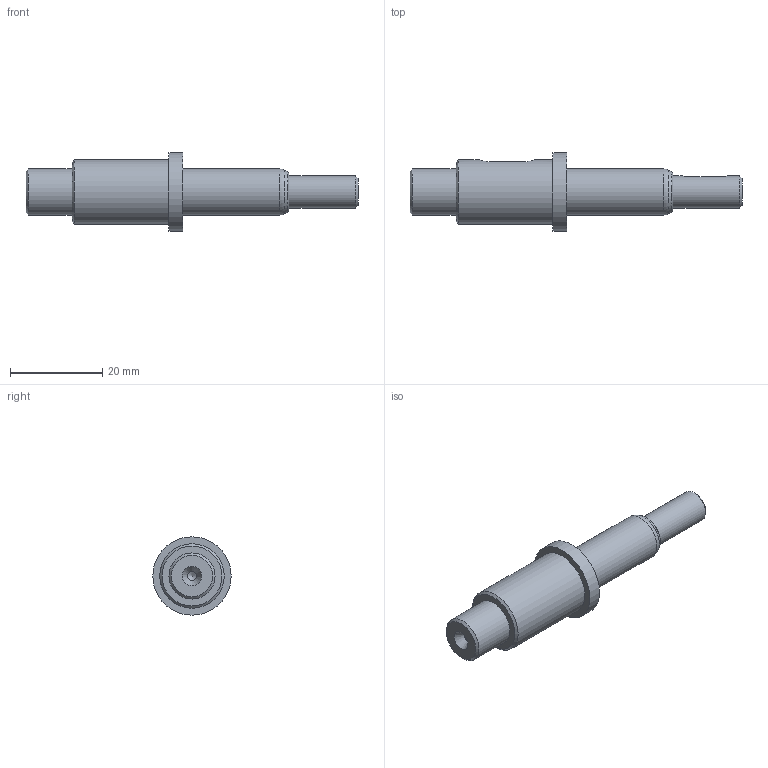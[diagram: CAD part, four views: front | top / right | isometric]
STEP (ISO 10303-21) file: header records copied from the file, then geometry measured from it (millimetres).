
FILE_DESCRIPTION(/* description */ (''),/* implementation_level */ '2;1');
FILE_NAME(/* name */ '',/* time_stamp */ '2025-01-06T15:39:40+09:00',/* author */ ('jhkim'),/* organization */ (''),/* preprocessor_version */ 'ST-DEVELOPER v20',/* originating_system */ 'Autodesk Inventor 2025',/* authorisation */ '');
FILE_SCHEMA (('AUTOMOTIVE_DESIGN { 1 0 10303 214 3 1 1 }'));
Length unit declared in the file: millimetre
Products named in the file (1): 상단 축
Bounding box: 72 x 17 x 17 mm (x, y, z)
Volume: 6845.2 mm3; surface area: 2993.7 mm2
Topology: 1 solids, 1 shells, 33 faces, 72 edges, 47 vertices
Faces by surface type: plane 12, cylinder 11, cone 8, torus 2
Full cylindrical faces by diameter (mm): 1 x1, 2 x1, 7 x1, 10 x2, 14 x1, 17 x1
Entity records: 1002 total; most frequent: CARTESIAN_POINT 223, DIRECTION 161, ORIENTED_EDGE 140, EDGE_CURVE 70, AXIS2_PLACEMENT_3D 65, VERTEX_POINT 47, EDGE_LOOP 41, FACE_OUTER_BOUND 33
